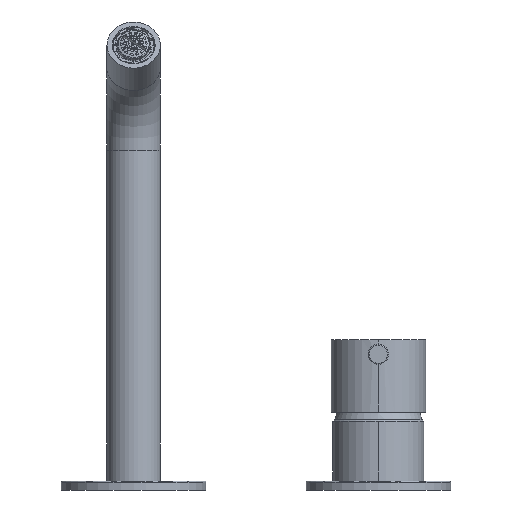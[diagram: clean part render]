
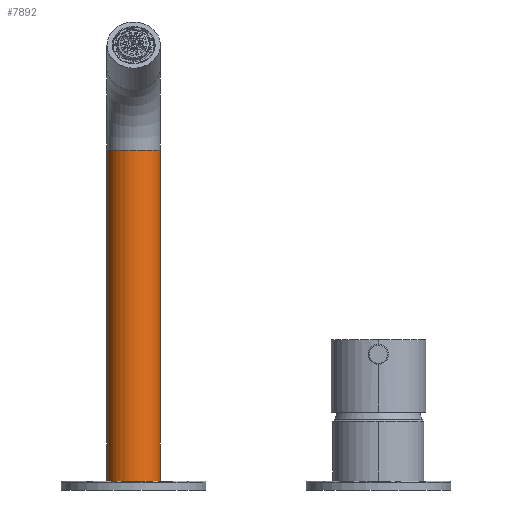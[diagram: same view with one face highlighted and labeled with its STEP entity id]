
A CAD part, front view. The second image highlights one B-rep face of the part: STEP entity #7892.
In plain terms, the highlighted cylindrical face has radius 12 mm (diameter 24 mm), a partial arc.
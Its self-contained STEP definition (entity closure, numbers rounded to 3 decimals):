
#2996=CARTESIAN_POINT('',(0.,0.,163.961));
#2997=DIRECTION('',(0.,0.,-1.));
#2998=DIRECTION('',(1.,0.,0.));
#2999=AXIS2_PLACEMENT_3D('',#2996,#2997,#2998);
#3021=DIRECTION('',(0.,0.,-1.));
#3022=VECTOR('',#3021,148.761);
#3023=CARTESIAN_POINT('',(12.,0.,163.961));
#3024=LINE('',#3023,#3022);
#3035=CARTESIAN_POINT('',(0.,0.,15.2));
#3036=DIRECTION('',(0.,0.,-1.));
#3037=DIRECTION('',(1.,0.,0.));
#3038=AXIS2_PLACEMENT_3D('',#3035,#3036,#3037);
#3040=DIRECTION('',(0.,0.,-1.));
#3041=VECTOR('',#3040,148.761);
#3042=CARTESIAN_POINT('',(-12.,0.,163.961));
#3043=LINE('',#3042,#3041);
#4980=CARTESIAN_POINT('',(12.,0.,163.961));
#4982=VERTEX_POINT('',#4980);
#4984=CARTESIAN_POINT('',(-12.,0.,163.961));
#4985=VERTEX_POINT('',#4984);
#5931=CARTESIAN_POINT('',(-12.,0.,15.2));
#5932=CARTESIAN_POINT('',(12.,0.,15.2));
#5933=VERTEX_POINT('',#5931);
#5934=VERTEX_POINT('',#5932);
#7881=CARTESIAN_POINT('',(0.,0.,11.2));
#7882=DIRECTION('',(0.,0.,-1.));
#7883=DIRECTION('',(-1.,0.,0.));
#7884=AXIS2_PLACEMENT_3D('',#7881,#7882,#7883);
#7885=CYLINDRICAL_SURFACE('',#7884,12.);
#7886=ORIENTED_EDGE('',*,*,#7869,.T.);
#7887=ORIENTED_EDGE('',*,*,#7845,.F.);
#7888=ORIENTED_EDGE('',*,*,#7801,.F.);
#7889=ORIENTED_EDGE('',*,*,#7842,.T.);
#7890=EDGE_LOOP('',(#7886,#7887,#7888,#7889));
#7891=FACE_OUTER_BOUND('',#7890,.F.);
#3000=CIRCLE('',#2999,12.);
#3039=CIRCLE('',#3038,12.);
#7801=EDGE_CURVE('',#4982,#4985,#3000,.T.);
#7842=EDGE_CURVE('',#4982,#5934,#3024,.T.);
#7845=EDGE_CURVE('',#4985,#5933,#3043,.T.);
#7869=EDGE_CURVE('',#5934,#5933,#3039,.T.);
#7892=ADVANCED_FACE('',(#7891),#7885,.T.);
